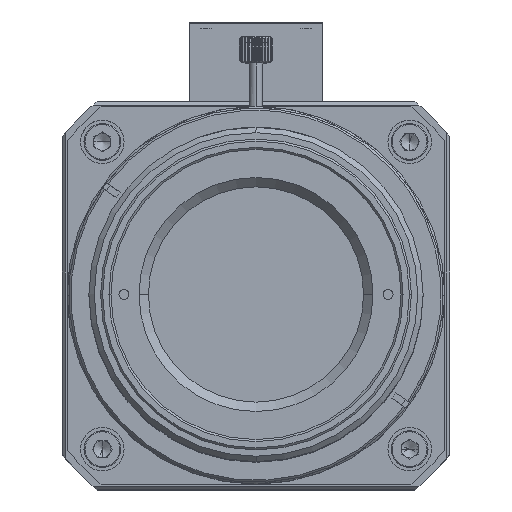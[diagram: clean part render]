
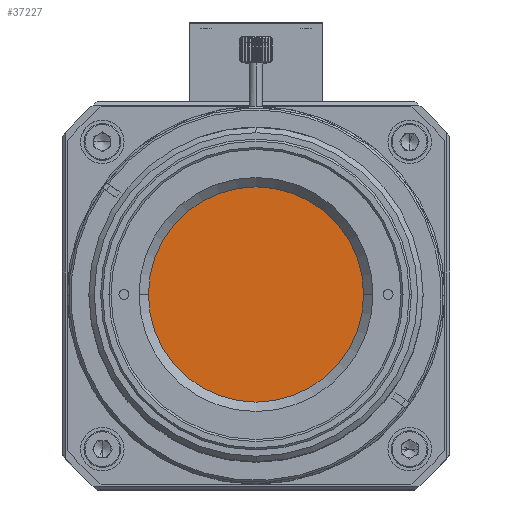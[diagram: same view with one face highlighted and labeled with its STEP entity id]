
A CAD part, top view. The second image highlights one B-rep face of the part: STEP entity #37227.
In plain terms, the highlighted planar face has unit normal (0, 0, 1).
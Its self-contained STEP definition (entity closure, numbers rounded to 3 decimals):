
#15980 = VERTEX_POINT ( 'NONE', #41968 ) ;
#15997 = EDGE_CURVE ( 'NONE', #16203, #15980, #41985, .T. ) ;
#16203 = VERTEX_POINT ( 'NONE', #42302 ) ;
#20094 = CIRCLE ( 'NONE', #20139, 16.1 ) ;
#20137 = DIRECTION ( 'NONE',  ( -1., 0., 0. ) ) ;
#20138 = DIRECTION ( 'NONE',  ( 0., 0., 1. ) ) ;
#20139 = AXIS2_PLACEMENT_3D ( 'NONE', #20145, #20138, #20137 ) ;
#20145 = CARTESIAN_POINT ( 'NONE',  ( 0., 0., -1.7 ) ) ;
#20178 = PLANE ( 'NONE',  #20200 ) ;
#20197 = DIRECTION ( 'NONE',  ( -1., 0., 0. ) ) ;
#20198 = DIRECTION ( 'NONE',  ( 0., 0., -1. ) ) ;
#20199 = CARTESIAN_POINT ( 'NONE',  ( 0., 0., -1.7 ) ) ;
#20200 = AXIS2_PLACEMENT_3D ( 'NONE', #20199, #20198, #20197 ) ;
#20204 = FACE_OUTER_BOUND ( 'NONE', #37179, .T. ) ;
#37179 = EDGE_LOOP ( 'NONE', ( #37203, #37181 ) ) ;
#37181 = ORIENTED_EDGE ( 'NONE', *, *, #15997, .T. ) ;
#37190 = EDGE_CURVE ( 'NONE', #15980, #16203, #20094, .T. ) ;
#37203 = ORIENTED_EDGE ( 'NONE', *, *, #37190, .T. ) ;
#37227 = ADVANCED_FACE ( 'NONE', ( #20204 ), #20178, .F. ) ;
#41968 = CARTESIAN_POINT ( 'NONE',  ( 16.1, 0., -1.7 ) ) ;
#41985 = CIRCLE ( 'NONE', #41987, 16.1 ) ;
#41987 = AXIS2_PLACEMENT_3D ( 'NONE', #42040, #42039, #42038 ) ;
#42038 = DIRECTION ( 'NONE',  ( -1., 0., 0. ) ) ;
#42039 = DIRECTION ( 'NONE',  ( 0., 0., 1. ) ) ;
#42040 = CARTESIAN_POINT ( 'NONE',  ( 0., 0., -1.7 ) ) ;
#42302 = CARTESIAN_POINT ( 'NONE',  ( -16.1, 0., -1.7 ) ) ;
